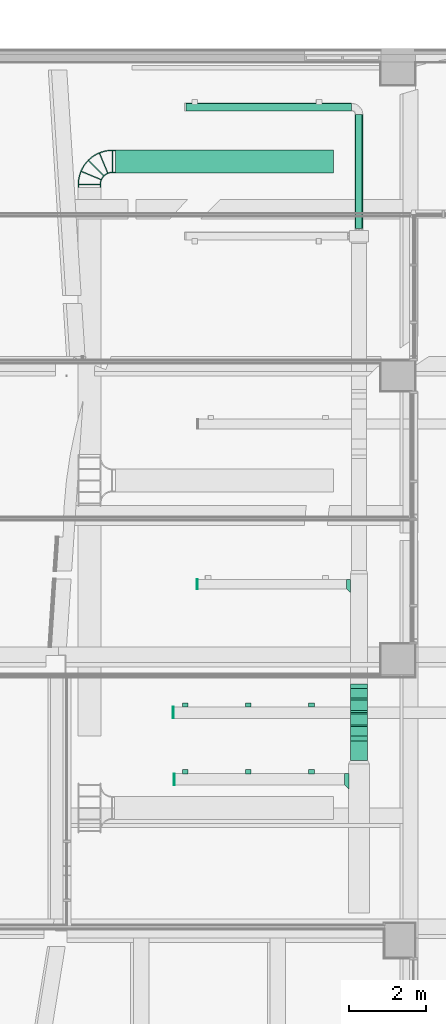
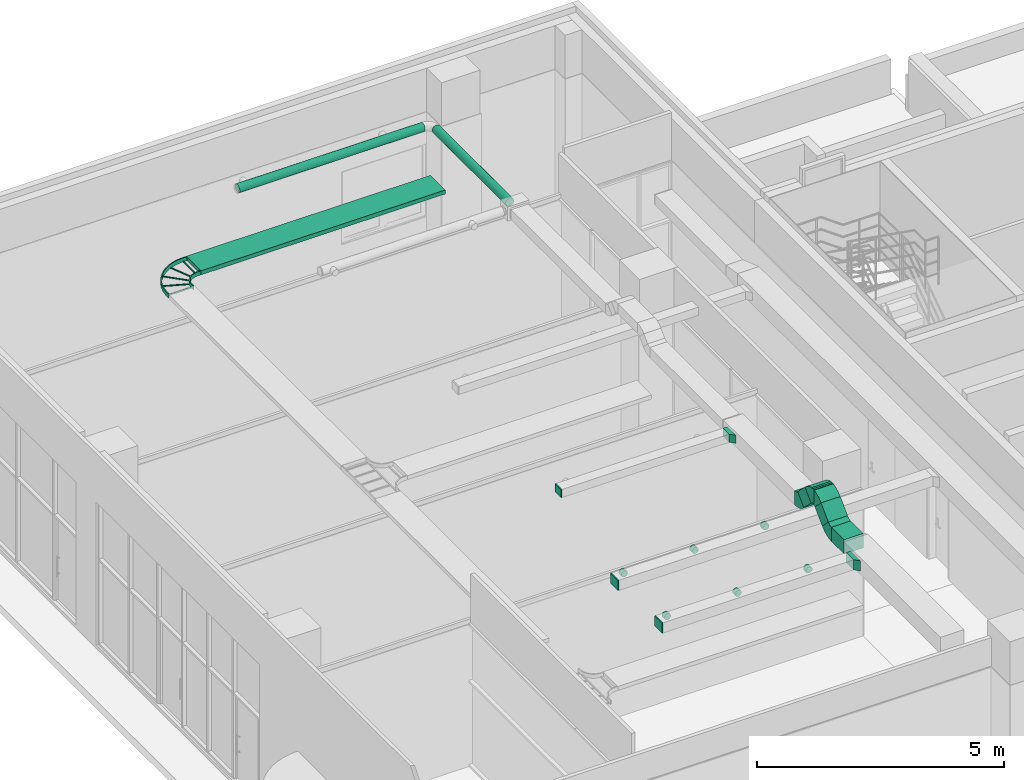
# One storey, part 89 of 100: 16 flow fittings, 6 flow segments.
"""IFC2X3 building model written with IfcOpenShell, lengths in millimetres."""

from ifc_helpers import new_model, entity, si_unit, converted_unit, derived_unit, direction, frame, frame_2d, origin, origin_2d_with_axis, place, context, subcontext, project, spatial, polyline, circle_curve, parameter, trimmed, segment, composite_curve, rectangle, circle, outline, extrude, faceted_brep, source, transform, mapped, material, material_list, type_object, type_shapes, element, save


model = new_model("IFC2X3")

# Units and contexts
model_context = context("Model", 3, precision=0.01, world=origin(), true_north=direction((6.123031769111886e-17, 1.0)))
body_context = subcontext(model_context, "Body", "Model", "MODEL_VIEW")
ifc_project = project(units=[si_unit("LENGTHUNIT", "METRE", prefix="MILLI"), si_unit("AREAUNIT", "SQUARE_METRE"), si_unit("VOLUMEUNIT", "CUBIC_METRE"), converted_unit("PLANEANGLEUNIT", "DEGREE", entity("IfcRatioMeasure", 0.017453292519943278), si_unit("PLANEANGLEUNIT", "RADIAN"), dimensions=[0, 0, 0, 0, 0, 0, 0]), si_unit("MASSUNIT", "GRAM", prefix="KILO"), derived_unit("MASSDENSITYUNIT", [(si_unit("MASSUNIT", "GRAM", prefix="KILO"), 1), (si_unit("LENGTHUNIT", "METRE"), -3)]), derived_unit("MOMENTOFINERTIAUNIT", [(si_unit("LENGTHUNIT", "METRE"), 4)]), si_unit("TIMEUNIT", "SECOND"), si_unit("FREQUENCYUNIT", "HERTZ"), si_unit("THERMODYNAMICTEMPERATUREUNIT", "DEGREE_CELSIUS"), derived_unit("THERMALTRANSMITTANCEUNIT", [(si_unit("MASSUNIT", "GRAM", prefix="KILO"), 1), (si_unit("THERMODYNAMICTEMPERATUREUNIT", "KELVIN"), -1), (si_unit("TIMEUNIT", "SECOND"), -3)]), derived_unit("VOLUMETRICFLOWRATEUNIT", [(si_unit("LENGTHUNIT", "METRE"), 3), (si_unit("TIMEUNIT", "SECOND"), -1)]), derived_unit("MASSFLOWRATEUNIT", [(si_unit("MASSUNIT", "GRAM", prefix="KILO"), 1), (si_unit("TIMEUNIT", "SECOND"), -1)]), derived_unit("ROTATIONALFREQUENCYUNIT", [(si_unit("TIMEUNIT", "SECOND"), -1)]), si_unit("ELECTRICCURRENTUNIT", "AMPERE"), si_unit("ELECTRICVOLTAGEUNIT", "VOLT"), si_unit("POWERUNIT", "WATT"), si_unit("FORCEUNIT", "NEWTON", prefix="KILO"), si_unit("ILLUMINANCEUNIT", "LUX"), si_unit("LUMINOUSFLUXUNIT", "LUMEN"), si_unit("LUMINOUSINTENSITYUNIT", "CANDELA"), derived_unit("USERDEFINED", [(si_unit("MASSUNIT", "GRAM", prefix="KILO"), -1), (si_unit("LENGTHUNIT", "METRE"), -2), (si_unit("TIMEUNIT", "SECOND"), 3), (si_unit("LUMINOUSFLUXUNIT", "LUMEN"), 1)]), derived_unit("SOUNDPOWERUNIT", [(si_unit("MASSUNIT", "GRAM", prefix="KILO"), 1), (si_unit("LENGTHUNIT", "METRE"), 2), (si_unit("TIMEUNIT", "SECOND"), -3)]), derived_unit("SOUNDPRESSUREUNIT", [(si_unit("MASSUNIT", "GRAM", prefix="KILO"), 1), (si_unit("LENGTHUNIT", "METRE"), -1), (si_unit("TIMEUNIT", "SECOND"), -2)]), derived_unit("LINEARVELOCITYUNIT", [(si_unit("LENGTHUNIT", "METRE"), 1), (si_unit("TIMEUNIT", "SECOND"), -1)]), si_unit("PRESSUREUNIT", "PASCAL"), derived_unit("USERDEFINED", [(si_unit("LENGTHUNIT", "METRE"), -2), (si_unit("MASSUNIT", "GRAM", prefix="KILO"), 1), (si_unit("TIMEUNIT", "SECOND"), -2)]), derived_unit("LINEARFORCEUNIT", [(si_unit("MASSUNIT", "GRAM", prefix="KILO"), 1), (si_unit("LENGTHUNIT", "METRE"), 1), (si_unit("TIMEUNIT", "SECOND"), -2), (si_unit("LENGTHUNIT", "METRE"), -1)]), derived_unit("PLANARFORCEUNIT", [(si_unit("MASSUNIT", "GRAM", prefix="KILO"), 1), (si_unit("LENGTHUNIT", "METRE"), 1), (si_unit("TIMEUNIT", "SECOND"), -2), (si_unit("LENGTHUNIT", "METRE"), -2)])], contexts=[model_context])

# Site, building, storey
site_placement = place(None, frame((-14167.972527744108, -657.2125860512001, 0.0)))
site = spatial("IfcSite", under=ifc_project, at=site_placement, Name="Default", CompositionType="ELEMENT")
building_placement = place(site_placement, origin())
building = spatial("IfcBuilding", under=site, at=building_placement, Name="Sample Building", CompositionType="ELEMENT")
storey_placement = place(building_placement, origin())
storey = spatial("IfcBuildingStorey", under=building, at=storey_placement, Name="지상 1층", CompositionType="ELEMENT", Elevation=0.0)

# Flow segments
duct_segment_type_1 = type_object("IfcDuctSegmentType", Name="직사각형 덕트:RA", PredefinedType="NOTDEFINED")
flow_segment_1_placement = place(storey_placement, origin())
element("IfcFlowSegment", 1, at=flow_segment_1_placement, inside=storey, type_object=duct_segment_type_1, Name="직사각형 덕트:RA", ObjectType="직사각형 덕트:RA", context=body_context, shape_type="SweptSolid", body=[
    extrude(rectangle(XDim=514.204680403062, YDim=450.00000000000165, at=frame_2d((-2.1884716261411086e-12, 0.0), x_axis=(1.0, 0.0))), frame((26099.51078220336, 17567.808595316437, 4005.0), z_axis=(0.0, 0.0, 1.0), x_axis=(0.0, 1.0, 0.0)), (0.0, 0.0, 1.0), 350.00000000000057),
])
flow_segment_2_placement = place(storey_placement, origin())
element("IfcFlowSegment", 2, at=flow_segment_2_placement, inside=storey, type_object=duct_segment_type_1, Name="직사각형 덕트:RA", ObjectType="직사각형 덕트:RA", context=body_context, shape_type="SweptSolid", body=[
    extrude(rectangle(XDim=417.1572875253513, YDim=350.0000000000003, at=frame_2d((-1.9895196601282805e-13, -1.8474111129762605e-13), x_axis=(1.0, 0.0))), frame((25874.51078220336, 18219.88568234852, 4430.0), z_axis=(1.0, 0.0, 0.0), x_axis=(0.0, 0.7071067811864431, 0.707106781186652)), (0.0, 0.0, 1.0), 450.00000000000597),
])
flow_segment_3_placement = place(storey_placement, origin())
element("IfcFlowSegment", 3, at=flow_segment_3_placement, inside=storey, type_object=duct_segment_type_1, Name="직사각형 덕트:RA", ObjectType="직사각형 덕트:RA", context=body_context, shape_type="SweptSolid", body=[
    extrude(rectangle(XDim=417.15728752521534, YDim=350.00000000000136, at=frame_2d((-9.379164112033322e-13, -5.826450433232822e-13), x_axis=(1.0, 0.0))), frame((25874.510782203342, 18916.970476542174, 4430.0), z_axis=(1.0, 0.0, 0.0), x_axis=(0.0, -0.707106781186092, 0.7071067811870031)), (0.0, 0.0, 1.0), 450.00000000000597),
])

# Flow fittings
ifc_material = material(Name="<Unnamed>")
duct_fitting_type_1 = type_object("IfcDuctFittingType", Name="M_직사각형 탭 - 베벨:RA", PredefinedType="NOTDEFINED", material=ifc_material)
shared_shape_1 = source(origin(), body_context, "Body", "SweptSolid", [
    extrude(outline(polyline([(-62.43839999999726, -220.0), (43.65760000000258, -220.0), (43.65760000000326, 180.0), (37.56160000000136, 180.0), (-62.438399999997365, 80.0), (-62.43839999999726, -220.0)])), frame((37.56160000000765, -70.0, -125.0), z_axis=(0.0, 0.0, 1.0), x_axis=(-1.0, 0.0, 0.0)), (0.0, 0.0, 1.0), 249.99999999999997),
])
type_shapes(duct_fitting_type_1, [shared_shape_1])
flow_fitting_1_placement = place(storey_placement, frame((25824.51078220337, 16819.497029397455, 4180.0), z_axis=(0.0, 0.0, -1.0), x_axis=(-1.0, 0.0, 0.0)))
element("IfcFlowFitting", 4, at=flow_fitting_1_placement, inside=storey, type_object=duct_fitting_type_1, material=ifc_material, Name="M_직사각형 탭 - 베벨:RA", ObjectType="M_직사각형 탭 - 베벨:RA", context=body_context, shape_type="MappedRepresentation", body=[
    mapped(shared_shape_1, transform((0.0, 0.0, 0.0), scale=1.0)),
])
duct_fitting_type_2 = type_object("IfcDuctFittingType", Name="M_직사각형 탭 - 베벨:RA", PredefinedType="NOTDEFINED", material=ifc_material)
shared_shape_2 = source(origin(), body_context, "Body", "SweptSolid", [
    extrude(outline(polyline([(-62.43839999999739, -190.0), (43.65760000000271, -190.0), (43.65760000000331, 160.0), (37.56160000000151, 160.0), (-62.438399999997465, 60.0), (-62.43839999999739, -190.0)])), frame((37.561600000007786, -65.0, -100.0), z_axis=(0.0, 0.0, 1.0), x_axis=(-1.0, 0.0, 0.0)), (0.0, 0.0, 1.0), 199.99999999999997),
])
type_shapes(duct_fitting_type_2, [shared_shape_2])
flow_fitting_2_placement = place(storey_placement, frame((25874.510782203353, 21915.862436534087, 4180.0), z_axis=(0.0, 0.0, -1.0), x_axis=(-1.0, 0.0, 0.0)))
element("IfcFlowFitting", 5, at=flow_fitting_2_placement, inside=storey, type_object=duct_fitting_type_2, material=ifc_material, Name="M_직사각형 탭 - 베벨:RA", ObjectType="M_직사각형 탭 - 베벨:RA", context=body_context, shape_type="MappedRepresentation", body=[
    mapped(shared_shape_2, transform((0.0, 0.0, 0.0), scale=1.0)),
])
duct_fitting_type_3 = type_object("IfcDuctFittingType", Name="M_직사각형 끝마감:RA", PredefinedType="NOTDEFINED", material=ifc_material)
shared_shape_3 = source(origin(), body_context, "Body", "SweptSolid", [
    extrude(rectangle(XDim=25.000000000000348, YDim=250.00000000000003, at=origin_2d_with_axis()), frame((12.500000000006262, 0.0, -100.0)), (0.0, 0.0, 1.0), 200.0),
])
type_shapes(duct_fitting_type_3, [shared_shape_3])
flow_fitting_3_placement = place(storey_placement, frame((21882.150815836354, 21915.862436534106, 4180.0), z_axis=(0.0, 0.0, 1.0), x_axis=(-1.0, 0.0, 0.0)))
element("IfcFlowFitting", 6, at=flow_fitting_3_placement, inside=storey, type_object=duct_fitting_type_3, material=ifc_material, Name="M_직사각형 끝마감:RA", ObjectType="M_직사각형 끝마감:RA", context=body_context, shape_type="MappedRepresentation", body=[
    mapped(shared_shape_3, transform((0.0, 0.0, 0.0), scale=1.0)),
])
duct_fitting_type_4 = type_object("IfcDuctFittingType", Name="M_직사각형 끝마감:RA", PredefinedType="NOTDEFINED", material=ifc_material)
shared_shape_4 = source(origin(), body_context, "Body", "SweptSolid", [
    extrude(rectangle(XDim=25.000000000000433, YDim=300.0, at=frame_2d((-3.552713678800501e-15, 0.0), x_axis=(1.0, 0.0))), frame((12.500000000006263, 0.0, -125.0)), (0.0, 0.0, 1.0), 250.00000000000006),
])
type_shapes(duct_fitting_type_4, [shared_shape_4])
flow_fitting_4_placement = place(storey_placement, frame((21283.307621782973, 16819.497029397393, 4180.0), z_axis=(0.0, 0.0, 1.0), x_axis=(-1.0, 0.0, 0.0)))
element("IfcFlowFitting", 7, at=flow_fitting_4_placement, inside=storey, type_object=duct_fitting_type_4, material=ifc_material, Name="M_직사각형 끝마감:RA", ObjectType="M_직사각형 끝마감:RA", context=body_context, shape_type="MappedRepresentation", body=[
    mapped(shared_shape_4, transform((0.0, 0.0, 0.0), scale=1.0)),
])
duct_fitting_type_5 = type_object("IfcDuctFittingType", Name="M_직사각형 끝마감:SA", PredefinedType="NOTDEFINED", material=ifc_material)
shared_shape_5 = source(origin(), body_context, "Body", "SweptSolid", [
    extrude(rectangle(XDim=25.000000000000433, YDim=300.0, at=frame_2d((-3.552713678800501e-15, 0.0), x_axis=(1.0, 0.0))), frame((12.500000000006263, 0.0, -125.0)), (0.0, 0.0, 1.0), 250.00000000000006),
])
type_shapes(duct_fitting_type_5, [shared_shape_5])
flow_fitting_5_placement = place(storey_placement, frame((21258.30762178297, 18565.840365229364, 4180.0), z_axis=(0.0, 0.0, 1.0), x_axis=(-1.0, 0.0, 0.0)))
element("IfcFlowFitting", 8, at=flow_fitting_5_placement, inside=storey, type_object=duct_fitting_type_5, material=ifc_material, Name="M_직사각형 끝마감:SA", ObjectType="M_직사각형 끝마감:SA", context=body_context, shape_type="MappedRepresentation", body=[
    mapped(shared_shape_5, transform((0.0, 0.0, 0.0), scale=1.0)),
])

# Flow segments
duct_segment_type_2 = type_object("IfcDuctSegmentType", Name="원형 덕트:RA", PredefinedType="NOTDEFINED")
flow_segment_4_placement = place(storey_placement, origin())
element("IfcFlowSegment", 9, at=flow_segment_4_placement, inside=storey, type_object=duct_segment_type_2, Name="원형 덕트:RA", ObjectType="원형 덕트:RA", context=body_context, shape_type="SweptSolid", body=[
    extrude(circle(Radius=100.0, at=frame_2d((8.662937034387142e-12, 0.0), x_axis=(1.0, 0.0))), frame((26099.51078220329, 31213.30025172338, 4180.0), z_axis=(0.0, 1.0, 0.0), x_axis=(-1.0, 0.0, 0.0)), (0.0, 0.0, 1.0), 2970.0710440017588),
])
flow_segment_5_placement = place(storey_placement, origin())
element("IfcFlowSegment", 10, at=flow_segment_5_placement, inside=storey, type_object=duct_segment_type_2, Name="원형 덕트:RA", ObjectType="원형 덕트:RA", context=body_context, shape_type="SweptSolid", body=[
    extrude(circle(Radius=100.0, at=frame_2d((1.2994405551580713e-11, 0.0), x_axis=(1.0, 0.0))), frame((21572.76251908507, 34383.37129572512, 4180.0), z_axis=(1.0, 0.0, 0.0), x_axis=(0.0, 1.0, 0.0)), (0.0, 0.0, 1.0), 4326.74826311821),
])

# Flow fittings
duct_fitting_type_6 = type_object("IfcDuctFittingType", Name="M_직사각형 엘보 - 반지름:RA", PredefinedType="NOTDEFINED", material=ifc_material)
shared_shape_6 = source(origin(), body_context, "Body", "SweptSolid", [
    extrude(outline(composite_curve([segment(polyline([(-226.2563132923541, -123.74368670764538), (123.74368670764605, -123.74368670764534)]), True, "CONTINUOUS"), segment(trimmed(circle_curve(frame_2d((298.743686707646, -123.74368670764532), x_axis=(-0.7071067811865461, 0.7071067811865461)), 174.99999999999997), [parameter(0.0)], [parameter(44.99999999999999)], True, "PARAMETER"), False, "CONTINUOUS"), segment(polyline([(175.0, 0.0), (-72.48737341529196, 247.48737341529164)]), True, "CONTINUOUS"), segment(trimmed(circle_curve(frame_2d((298.743686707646, -123.74368670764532), x_axis=(-0.7071067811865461, 0.7071067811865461)), 525.0), [parameter(0.0)], [parameter(44.99999999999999)], True, "PARAMETER"), True, "CONTINUOUS")], self_intersect=False)), frame((-21.23106012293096, 51.25631329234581, -225.0), z_axis=(0.0, 0.0, 1.0), x_axis=(-0.7071067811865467, 0.7071067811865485, 0.0)), (0.0, 0.0, 1.0), 450.00000000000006),
])
type_shapes(duct_fitting_type_6, [shared_shape_6])
for number, where, z_axis, x_axis in (
    (11, (26099.51078220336, 17969.885682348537, 4180.0), (1.0, 0.0, 0.0), (0.0, 1.0, 0.0)),
    (12, (26099.51078220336, 18469.88568234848, 4680.0), (-1.0, 0.0, 0.0), (0.0, 0.7071067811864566, 0.7071067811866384)),
    (13, (26099.51078220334, 19166.97047654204, 4180.0), (-1.0, 0.0, 0.0), (0.0, -1.0, 0.0)),
    (14, (26099.51078220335, 18666.970476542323, 4680.0), (-1.0, 0.0, 0.0), (0.0, 1.0, 0.0)),
):
    element("IfcFlowFitting", number, at=place(storey_placement, frame(where, z_axis=z_axis, x_axis=x_axis)), inside=storey, type_object=duct_fitting_type_6, material=ifc_material, Name="M_직사각형 엘보 - 반지름:RA", ObjectType="M_직사각형 엘보 - 반지름:RA", context=body_context, shape_type="MappedRepresentation", body=[
        mapped(shared_shape_6, transform((0.0, 0.0, 0.0), scale=1.0)),
    ])
duct_fitting_type_7 = type_object("IfcDuctFittingType", Name="M_원형 견적:SA", PredefinedType="NOTDEFINED", material=ifc_material)
shared_shape_7 = source(origin(), body_context, "Body", "Brep", [
    faceted_brep([(101.6000000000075, 0.0, -75.0), (101.60000000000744, 19.41142838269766, -72.44443697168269), (101.6000000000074, 37.50000000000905, -64.95190528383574), (101.60000000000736, 53.033008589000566, -53.03300858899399), (101.60000000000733, 64.95190528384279, -37.500000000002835), (101.60000000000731, 72.4444369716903, -19.411428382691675), (101.60000000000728, 75.0, 0.0), (101.60000000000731, 72.4444369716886, 19.41142838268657), (101.60000000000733, 64.95190528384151, 37.49999999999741), (101.60000000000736, 53.03300858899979, 53.03300858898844), (101.6000000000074, 37.500000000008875, 64.95190528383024), (101.60000000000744, 19.4114283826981, 72.44443697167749), (101.6000000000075, 0.0, 75.0), (101.60000000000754, -19.411428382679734, 72.44443697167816), (101.6000000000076, -37.49999999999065, 64.95190528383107), (101.60000000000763, -53.033008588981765, 53.03300858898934), (101.60000000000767, -64.95190528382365, 37.49999999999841), (101.60000000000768, -72.44443697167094, 19.411428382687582), (101.6000000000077, -75.0, 0.0), (101.60000000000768, -72.44443697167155, -19.411428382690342), (101.60000000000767, -64.95190528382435, -37.500000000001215), (101.60000000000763, -53.03300858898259, -53.03300858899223), (101.6000000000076, -37.499999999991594, -64.95190528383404), (101.60000000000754, -19.411428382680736, -72.44443697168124), (0.0, 0.0, 75.0), (-6.0959999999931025, 0.0, 75.0), (-6.095999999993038, -19.411428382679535, 72.44443697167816), (0.0, -19.411428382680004, 72.44443697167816), (-6.095999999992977, -37.49999999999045, 64.95190528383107), (0.0, -37.49999999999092, 64.95190528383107), (-6.095999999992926, -53.03300858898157, 53.03300858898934), (0.0, -53.03300858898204, 53.03300858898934), (0.0, -64.95190528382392, 37.49999999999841), (-6.095999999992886, -64.95190528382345, 37.49999999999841), (-6.09599999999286, -72.44443697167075, 19.411428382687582), (0.0, -72.44443697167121, 19.411428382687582), (-6.095999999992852, -75.0, 0.0), (0.0, -75.0, 0.0), (0.0, -64.95190528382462, -37.500000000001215), (0.0, -72.44443697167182, -19.411428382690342), (-6.09599999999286, -72.44443697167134, -19.411428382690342), (-6.095999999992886, -64.95190528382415, -37.500000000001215), (-6.095999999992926, -53.03300858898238, -53.03300858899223), (0.0, -53.03300858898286, -53.03300858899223), (0.0, -37.49999999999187, -64.95190528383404), (-6.095999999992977, -37.4999999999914, -64.95190528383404), (-6.095999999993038, -19.41142838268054, -72.44443697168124), (0.0, -19.411428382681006, -72.44443697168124), (-6.0959999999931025, 0.0, -75.0), (0.0, 0.0, -75.0), (-6.095999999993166, 19.41142838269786, -72.44443697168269), (0.0, 19.41142838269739, -72.44443697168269), (-6.095999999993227, 37.50000000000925, -64.95190528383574), (0.0, 37.50000000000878, -64.95190528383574), (-6.095999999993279, 53.03300858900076, -53.03300858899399), (0.0, 53.033008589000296, -53.03300858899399), (0.0, 64.95190528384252, -37.500000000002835), (-6.095999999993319, 64.95190528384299, -37.500000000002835), (-6.095999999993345, 72.4444369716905, -19.411428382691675), (0.0, 72.44443697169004, -19.411428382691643), (-6.095999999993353, 75.0, 0.0), (0.0, 75.0, 0.0), (-6.095999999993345, 72.44443697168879, 19.41142838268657), (0.0, 72.44443697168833, 19.41142838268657), (-6.095999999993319, 64.9519052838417, 37.49999999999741), (0.0, 64.95190528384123, 37.49999999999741), (-6.095999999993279, 53.033008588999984, 53.03300858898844), (0.0, 53.033008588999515, 53.03300858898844), (0.0, 37.500000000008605, 64.95190528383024), (-6.095999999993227, 37.500000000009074, 64.95190528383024), (-6.095999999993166, 19.4114283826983, 72.44443697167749), (0.0, 19.41142838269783, 72.44443697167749)], [[[0, 1, 2, 3, 4, 5, 6, 7, 8, 9, 10, 11, 12, 13, 14, 15, 16, 17, 18, 19, 20, 21, 22, 23]], [[13, 12, 24, 25, 26, 27]], [[14, 13, 27, 26, 28, 29]], [[29, 28, 30, 31, 15, 14]], [[17, 16, 32, 33, 34, 35]], [[18, 17, 35, 34, 36, 37]], [[31, 30, 33, 32, 16, 15]], [[38, 20, 19, 39, 40, 41]], [[37, 36, 40, 39, 19, 18]], [[20, 38, 41, 42, 43, 21]], [[23, 22, 44, 45, 46, 47]], [[0, 23, 47, 46, 48, 49]], [[43, 42, 45, 44, 22, 21]], [[1, 0, 49, 48, 50, 51]], [[2, 1, 51, 50, 52, 53]], [[53, 52, 54, 55, 3, 2]], [[5, 4, 56, 57, 58, 59]], [[6, 5, 59, 58, 60, 61]], [[55, 54, 57, 56, 4, 3]], [[7, 6, 61, 60, 62, 63]], [[8, 7, 63, 62, 64, 65]], [[65, 64, 66, 67, 9, 8]], [[11, 10, 68, 69, 70, 71]], [[12, 11, 71, 70, 25, 24]], [[67, 66, 69, 68, 10, 9]], [[46, 45, 42, 41, 40, 36, 34, 33, 30, 28, 26, 25, 70, 69, 66, 64, 62, 60, 58, 57, 54, 52, 50, 48]]]),
])
type_shapes(duct_fitting_type_7, [shared_shape_7])
for number, where, z_axis, x_axis in (
    (15, (21557.52309659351, 18715.84036522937, 4180.0), (0.0, 0.0, -1.0), (0.0, 1.0, 0.0)),
    (16, (23207.52309659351, 18715.84036522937, 4180.0), (0.0, 0.0, -1.0), (0.0, 1.0, 0.0)),
    (17, (24857.52309659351, 18715.84036522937, 4180.0), (0.0, 0.0, -1.0), (0.0, 1.0, 0.0)),
):
    element("IfcFlowFitting", number, at=place(storey_placement, frame(where, z_axis=z_axis, x_axis=x_axis)), inside=storey, type_object=duct_fitting_type_7, material=ifc_material, Name="M_원형 견적:SA", ObjectType="M_원형 견적:SA", context=body_context, shape_type="MappedRepresentation", body=[
        mapped(shared_shape_7, transform((0.0, 0.0, 0.0), scale=1.0)),
    ])
duct_fitting_type_8 = type_object("IfcDuctFittingType", Name="M_원형 견적:RA", PredefinedType="NOTDEFINED", material=ifc_material)
shared_shape_8 = source(origin(), body_context, "Body", "Brep", [
    faceted_brep([(101.6000000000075, 0.0, -75.0), (101.60000000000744, 19.41142838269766, -72.44443697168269), (101.6000000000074, 37.50000000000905, -64.95190528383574), (101.60000000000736, 53.033008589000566, -53.03300858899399), (101.60000000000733, 64.95190528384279, -37.500000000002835), (101.60000000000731, 72.4444369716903, -19.411428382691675), (101.60000000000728, 75.0, 0.0), (101.60000000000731, 72.4444369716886, 19.41142838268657), (101.60000000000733, 64.95190528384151, 37.49999999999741), (101.60000000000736, 53.03300858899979, 53.03300858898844), (101.6000000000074, 37.500000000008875, 64.95190528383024), (101.60000000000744, 19.4114283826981, 72.44443697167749), (101.6000000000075, 0.0, 75.0), (101.60000000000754, -19.411428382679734, 72.44443697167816), (101.6000000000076, -37.49999999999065, 64.95190528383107), (101.60000000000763, -53.033008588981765, 53.03300858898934), (101.60000000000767, -64.95190528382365, 37.49999999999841), (101.60000000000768, -72.44443697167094, 19.411428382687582), (101.6000000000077, -75.0, 0.0), (101.60000000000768, -72.44443697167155, -19.411428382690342), (101.60000000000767, -64.95190528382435, -37.500000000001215), (101.60000000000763, -53.03300858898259, -53.03300858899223), (101.6000000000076, -37.499999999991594, -64.95190528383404), (101.60000000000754, -19.411428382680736, -72.44443697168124), (0.0, 0.0, 75.0), (-6.095999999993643, 0.0, 75.0), (-6.095999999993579, -19.411428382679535, 72.44443697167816), (0.0, -19.411428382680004, 72.44443697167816), (-6.095999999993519, -37.49999999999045, 64.95190528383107), (0.0, -37.49999999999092, 64.95190528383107), (-6.0959999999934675, -53.03300858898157, 53.03300858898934), (0.0, -53.03300858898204, 53.03300858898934), (0.0, -64.95190528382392, 37.49999999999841), (-6.095999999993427, -64.95190528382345, 37.49999999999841), (-6.095999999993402, -72.44443697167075, 19.411428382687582), (0.0, -72.44443697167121, 19.411428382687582), (-6.095999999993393, -75.0, 0.0), (0.0, -75.0, 0.0), (0.0, -64.95190528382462, -37.500000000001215), (0.0, -72.44443697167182, -19.411428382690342), (-6.095999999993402, -72.44443697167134, -19.411428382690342), (-6.095999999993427, -64.95190528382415, -37.500000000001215), (-6.0959999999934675, -53.03300858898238, -53.03300858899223), (0.0, -53.03300858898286, -53.03300858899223), (0.0, -37.49999999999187, -64.95190528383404), (-6.095999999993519, -37.4999999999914, -64.95190528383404), (-6.095999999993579, -19.41142838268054, -72.44443697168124), (0.0, -19.411428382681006, -72.44443697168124), (-6.095999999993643, 0.0, -75.0), (0.0, 0.0, -75.0), (-6.095999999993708, 19.41142838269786, -72.44443697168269), (0.0, 19.41142838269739, -72.44443697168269), (-6.095999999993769, 37.50000000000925, -64.95190528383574), (0.0, 37.50000000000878, -64.95190528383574), (-6.09599999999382, 53.03300858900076, -53.03300858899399), (0.0, 53.033008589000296, -53.03300858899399), (0.0, 64.95190528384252, -37.500000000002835), (-6.095999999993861, 64.95190528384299, -37.500000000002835), (-6.095999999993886, 72.4444369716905, -19.411428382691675), (0.0, 72.44443697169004, -19.411428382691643), (-6.095999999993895, 75.0, 0.0), (0.0, 75.0, 0.0), (-6.095999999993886, 72.44443697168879, 19.41142838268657), (0.0, 72.44443697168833, 19.41142838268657), (-6.095999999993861, 64.9519052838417, 37.49999999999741), (0.0, 64.95190528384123, 37.49999999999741), (-6.09599999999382, 53.033008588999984, 53.03300858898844), (0.0, 53.033008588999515, 53.03300858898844), (0.0, 37.500000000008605, 64.95190528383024), (-6.095999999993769, 37.500000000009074, 64.95190528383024), (-6.095999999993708, 19.4114283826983, 72.44443697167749), (0.0, 19.41142838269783, 72.44443697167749)], [[[0, 1, 2, 3, 4, 5, 6, 7, 8, 9, 10, 11, 12, 13, 14, 15, 16, 17, 18, 19, 20, 21, 22, 23]], [[13, 12, 24, 25, 26, 27]], [[14, 13, 27, 26, 28, 29]], [[29, 28, 30, 31, 15, 14]], [[17, 16, 32, 33, 34, 35]], [[18, 17, 35, 34, 36, 37]], [[31, 30, 33, 32, 16, 15]], [[38, 20, 19, 39, 40, 41]], [[37, 36, 40, 39, 19, 18]], [[20, 38, 41, 42, 43, 21]], [[23, 22, 44, 45, 46, 47]], [[0, 23, 47, 46, 48, 49]], [[43, 42, 45, 44, 22, 21]], [[1, 0, 49, 48, 50, 51]], [[2, 1, 51, 50, 52, 53]], [[53, 52, 54, 55, 3, 2]], [[5, 4, 56, 57, 58, 59]], [[6, 5, 59, 58, 60, 61]], [[55, 54, 57, 56, 4, 3]], [[7, 6, 61, 60, 62, 63]], [[8, 7, 63, 62, 64, 65]], [[65, 64, 66, 67, 9, 8]], [[11, 10, 68, 69, 70, 71]], [[12, 11, 71, 70, 25, 24]], [[67, 66, 69, 68, 10, 9]], [[46, 45, 42, 41, 40, 36, 34, 33, 30, 28, 26, 25, 70, 69, 66, 64, 62, 60, 58, 57, 54, 52, 50, 48]]]),
])
type_shapes(duct_fitting_type_8, [shared_shape_8])
for number, where, z_axis, x_axis in (
    (18, (21555.729758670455, 16969.497029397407, 4180.0), (0.0, 0.0, -1.0), (0.0, 1.0, 0.0)),
    (19, (23205.72975867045, 16969.497029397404, 4180.0), (0.0, 0.0, -1.0), (0.0, 1.0, 0.0)),
    (20, (24857.523096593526, 16969.4970293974, 4180.0), (0.0, 0.0, -1.0), (0.0, 1.0, 0.0)),
):
    element("IfcFlowFitting", number, at=place(storey_placement, frame(where, z_axis=z_axis, x_axis=x_axis)), inside=storey, type_object=duct_fitting_type_8, material=ifc_material, Name="M_원형 견적:RA", ObjectType="M_원형 견적:RA", context=body_context, shape_type="MappedRepresentation", body=[
        mapped(shared_shape_8, transform((0.0, 0.0, 0.0), scale=1.0)),
    ])

# Flow segment
cable_carrier_segment_type = type_object("IfcCableCarrierSegmentType", Name="부속이 있는 케이블 트레이:Ladder Cable Tray", PredefinedType="CABLETRAYSEGMENT")
flow_segment_6_placement = place(storey_placement, origin())
element("IfcFlowSegment", 21, at=flow_segment_6_placement, inside=storey, type_object=cable_carrier_segment_type, Name="부속이 있는 케이블 트레이:Ladder Cable Tray", ObjectType="부속이 있는 케이블 트레이:Ladder Cable Tray", context=body_context, shape_type="SweptSolid", body=[
    extrude(rectangle(XDim=5699.171141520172, YDim=600.0000000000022, at=frame_2d((0.0, -2.1600499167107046e-12), x_axis=(1.0, 0.0))), frame((22585.315329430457, 32964.7211190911, 3730.0)), (0.0, 0.0, 1.0), 100.0),
])

# Flow fitting
ifc_material_list_1 = material_list([ifc_material, ifc_material, ifc_material, ifc_material, ifc_material, ifc_material, ifc_material])
ifc_material_list_2 = material_list([ifc_material, ifc_material, ifc_material, ifc_material, ifc_material, ifc_material, ifc_material])
cable_carrier_fitting_type = type_object("IfcCableCarrierFittingType", Name="M_래더 수평 구부림:표준", PredefinedType="NOTDEFINED", material=ifc_material_list_2)
shared_shape_9 = source(origin(), body_context, "Body", "SweptSolid", [
    extrude(rectangle(XDim=549.2000000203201, YDim=25.400000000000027, at=frame_2d((2.842170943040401e-14, -3.375077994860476e-14), x_axis=(1.0, 0.0))), frame((-45.67228049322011, 370.3899405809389, -50.0), z_axis=(0.0, 0.0, 1.0), x_axis=(0.9238795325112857, -0.38268343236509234, 0.0)), (0.0, 0.0, 1.0), 25.399999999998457),
    extrude(rectangle(XDim=549.2000000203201, YDim=25.400000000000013, at=frame_2d((-2.842170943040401e-14, 8.881784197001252e-15), x_axis=(1.0, 0.0))), frame((-370.38994058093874, 45.67228049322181, -50.0), z_axis=(0.0, 0.0, 1.0), x_axis=(0.3826834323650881, -0.9238795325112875, 0.0)), (0.0, 0.0, 1.0), 25.399999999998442),
    extrude(rectangle(XDim=549.20000002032, YDim=25.400000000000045, at=origin_2d_with_axis()), frame((0.0, 600.0, -50.0)), (0.0, 0.0, 1.0), 25.399999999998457),
    extrude(rectangle(XDim=549.2000000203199, YDim=25.400000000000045, at=origin_2d_with_axis()), frame((-600.0, 0.0, -50.0), z_axis=(0.0, 0.0, 1.0), x_axis=(0.0, -1.0, 0.0)), (0.0, 0.0, 1.0), 25.399999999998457),
    extrude(rectangle(XDim=549.20000002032, YDim=25.400000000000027, at=frame_2d((0.0, 2.5757174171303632e-14), x_axis=(1.0, 0.0))), frame((-175.73593128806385, 175.7359312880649, -50.0), z_axis=(0.0, 0.0, 1.0), x_axis=(0.7071067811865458, -0.7071067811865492, 0.0)), (0.0, 0.0, 1.0), 25.399999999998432),
    extrude(outline(composite_curve([segment(polyline([(-216.34999999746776, -189.04999999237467), (-136.34999999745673, -189.0499999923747)]), True, "CONTINUOUS"), segment(trimmed(circle_curve(frame_2d((-136.3499999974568, 136.34999999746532), x_axis=(0.0, -1.0)), 325.39999998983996), [parameter(0.0)], [parameter(89.99999999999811)], True, "PARAMETER"), True, "CONTINUOUS"), segment(polyline([(189.0499999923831, 136.3499999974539), (189.0499999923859, 216.349999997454)]), True, "CONTINUOUS"), segment(polyline([(189.0499999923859, 216.349999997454), (163.650000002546, 216.34999999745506)]), True, "CONTINUOUS"), segment(polyline([(163.650000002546, 216.34999999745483), (163.6500000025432, 136.34999999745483)]), True, "CONTINUOUS"), segment(trimmed(circle_curve(frame_2d((-136.3499999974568, 136.34999999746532), x_axis=(0.0, -1.0)), 300.00000000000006), [parameter(0.0)], [parameter(89.99999999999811)], True, "PARAMETER"), False, "CONTINUOUS"), segment(polyline([(-136.3499999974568, -163.65000000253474), (-216.3499999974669, -163.6500000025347)]), True, "CONTINUOUS"), segment(polyline([(-216.3499999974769, -163.6500000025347), (-216.34999999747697, -189.04999999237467)]), True, "CONTINUOUS")], self_intersect=False)), frame((-463.65000000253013, 463.65000000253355, -50.0)), (0.0, 0.0, 1.0), 99.99999999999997),
    extrude(outline(composite_curve([segment(polyline([(-503.6500000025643, -476.3499999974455), (-423.65000000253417, -476.3499999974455)]), True, "CONTINUOUS"), segment(trimmed(circle_curve(frame_2d((-423.6500000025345, 423.65000000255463), x_axis=(0.0, -1.0)), 900.0000000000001), [parameter(0.0)], [parameter(89.99999999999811)], True, "PARAMETER"), True, "CONTINUOUS"), segment(polyline([(476.3499999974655, 423.6500000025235), (476.3499999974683, 503.6500000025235)]), True, "CONTINUOUS"), segment(polyline([(476.3499999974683, 503.6500000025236), (450.9500000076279, 503.6500000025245)]), True, "CONTINUOUS"), segment(polyline([(450.9500000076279, 503.6500000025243), (450.9500000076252, 423.6500000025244)]), True, "CONTINUOUS"), segment(trimmed(circle_curve(frame_2d((-423.6500000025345, 423.65000000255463), x_axis=(0.0, -1.0)), 874.6000000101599), [parameter(0.0)], [parameter(89.99999999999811)], True, "PARAMETER"), False, "CONTINUOUS"), segment(polyline([(-423.6500000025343, -450.9500000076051), (-503.6500000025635, -450.95000000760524)]), True, "CONTINUOUS"), segment(polyline([(-503.6500000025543, -450.95000000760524), (-503.6500000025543, -476.3499999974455)]), True, "CONTINUOUS")], self_intersect=False)), frame((-176.34999999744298, 176.34999999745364, -50.0)), (0.0, 0.0, 1.0), 99.9999999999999),
])
type_shapes(cable_carrier_fitting_type, [shared_shape_9])
flow_fitting_6_placement = place(storey_placement, frame((19055.729758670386, 32964.72111909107, 3780.0), z_axis=(0.0, 0.0, 1.0), x_axis=(-1.0, 0.0, 0.0)))
element("IfcFlowFitting", 22, at=flow_fitting_6_placement, inside=storey, type_object=cable_carrier_fitting_type, material=ifc_material_list_1, Name="M_래더 수평 구부림:표준", ObjectType="M_래더 수평 구부림:표준", context=body_context, shape_type="MappedRepresentation", body=[
    mapped(shared_shape_9, transform((0.0, 0.0, 0.0), scale=1.0)),
])

save(model, "model.ifc")
